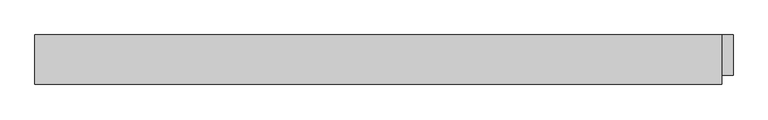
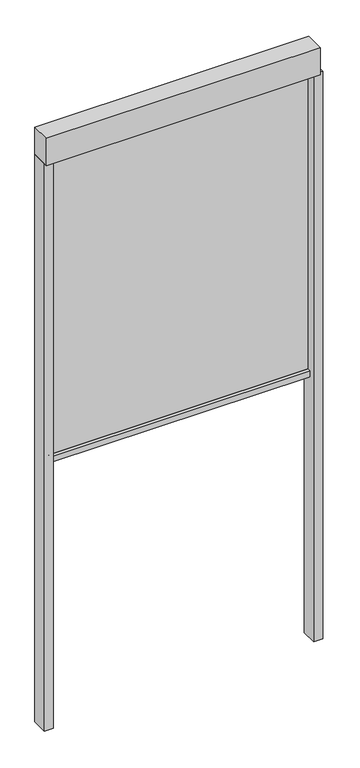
"""IFC4 building model written with IfcOpenShell, lengths in millimetres: proxy geometry, Renson_Fixscreen_Minimal_CW50_Start : For curtain wall - Start element - Access downwards - Fabric close to the window."""

import ifcopenshell
import ifcopenshell.guid

model = None  # the IFC model being written
_history = None  # IfcOwnerHistory: only IFC2X3 demands one
_inside = {}  # id of a spatial element -> (the spatial element, [elements in it])
_under = {}  # id of a project, library or spatial element -> (it, [spatial elements below it])
_declared = {}  # id of a project -> (the project, [libraries it declares])
_typed = {}  # id of a type object -> (the type object, [elements of that type])
_made_of = {}  # id of a material, layer set ... -> (it, [elements and type objects made of it])


def new_model(schema):
    """Start an empty IFC model of exactly this schema.

    Asked for "IFC4X3", IfcOpenShell would pick the latest addendum, in which some entities
    have other attributes; the version numbers below select the first issue.
    IFC2X3 requires an IfcOwnerHistory on every rooted entity: one is made here for all.
    """
    global model, _history
    if schema == "IFC4X3":
        model = ifcopenshell.file(schema_version=(4, 3, 0, 0))
    else:
        model = ifcopenshell.file(schema=schema)
    _inside.clear()
    _under.clear()
    _declared.clear()
    _typed.clear()
    _made_of.clear()
    _history = None
    if model.schema == "IFC2X3":
        org = make("IfcOrganization", Name="unknown")
        user = make(
            "IfcPersonAndOrganization",
            ThePerson=make("IfcPerson", FamilyName="unknown"),
            TheOrganization=org,
        )
        app = make(
            "IfcApplication",
            ApplicationDeveloper=org,
            Version="unknown",
            ApplicationFullName="unknown",
            ApplicationIdentifier="unknown",
        )
        _history = make(
            "IfcOwnerHistory",
            OwningUser=user,
            OwningApplication=app,
            ChangeAction="ADDED",
            CreationDate=0,
        )
    return model


def make(cls, **values):
    """One entity of the class cls with the attributes given. An attribute that is None is left unset."""
    return model.create_entity(
        cls, **{name: value for name, value in values.items() if value is not None}
    )


def rooted(cls, **values):
    """An entity with a GlobalId (a new one), such as an element, a storey or a relation."""
    return make(cls, GlobalId=ifcopenshell.guid.new(), OwnerHistory=_history, **values)


def si_unit(unit_type, name, prefix=None):
    """IfcSIUnit, for example si_unit("LENGTHUNIT", "METRE", prefix="MILLI")."""
    return make("IfcSIUnit", UnitType=unit_type, Prefix=prefix, Name=name)


def assignment(units):
    """IfcUnitAssignment: the units of a project."""
    return None if units is None else make("IfcUnitAssignment", Units=units)


def point(xyz):
    """IfcCartesianPoint."""
    return None if xyz is None else make("IfcCartesianPoint", Coordinates=xyz)


def direction(xyz):
    """IfcDirection."""
    return None if xyz is None else make("IfcDirection", DirectionRatios=xyz)


def frame(location, z_axis=None, x_axis=None):
    """IfcAxis2Placement3D, a coordinate frame: its origin and axes. An axis left out is left unset."""
    return make(
        "IfcAxis2Placement3D",
        Location=point(location),
        Axis=direction(z_axis),
        RefDirection=direction(x_axis),
    )


def frame_2d(location, x_axis=None):
    """IfcAxis2Placement2D, a coordinate frame in the plane: its origin and x axis."""
    return make(
        "IfcAxis2Placement2D", Location=point(location), RefDirection=direction(x_axis)
    )


def origin():
    """The frame at (0, 0, 0) with its axes left unset."""
    return frame((0.0, 0.0, 0.0))


def origin_with_axes():
    """The frame at (0, 0, 0) with the z axis (0, 0, 1) and the x axis (1, 0, 0) written out."""
    return frame((0.0, 0.0, 0.0), z_axis=(0.0, 0.0, 1.0), x_axis=(1.0, 0.0, 0.0))


def place(relative_to, where):
    """IfcLocalPlacement: puts the frame where relative to a parent placement (None: the world)."""
    return make(
        "IfcLocalPlacement", PlacementRelTo=relative_to, RelativePlacement=where
    )


def context(
    kind, dimensions, precision=None, world=None, true_north=None, identifier=None
):
    """IfcGeometricRepresentationContext, for example the 3D "Model" context."""
    return make(
        "IfcGeometricRepresentationContext",
        ContextIdentifier=identifier,
        ContextType=kind,
        CoordinateSpaceDimension=dimensions,
        Precision=precision,
        WorldCoordinateSystem=world,
        TrueNorth=true_north,
    )


def project(units=None, contexts=None):
    """IfcProject with its units and contexts."""
    return rooted(
        "IfcProject",
        Name="project",
        RepresentationContexts=contexts,
        UnitsInContext=assignment(units),
    )


def spatial(cls, under=None, at=None, **own):
    """A site, building, storey or space (cls), placed at a placement, below another one or the project."""
    s = rooted(cls, ObjectPlacement=at, **own)
    if under is not None:
        _under.setdefault(under.id(), (under, []))[1].append(s)
    return s


def polyline(points):
    """IfcPolyline through the points."""
    return make("IfcPolyline", Points=[point(p) for p in points])


def circle_curve(where, radius):
    """IfcCircle in the frame where."""
    return make("IfcCircle", Position=where, Radius=radius)


def trimmed(basis, trim1, trim2, sense, master):
    """IfcTrimmedCurve: the piece of a basis curve between two trims."""
    return make(
        "IfcTrimmedCurve",
        BasisCurve=basis,
        Trim1=trim1,
        Trim2=trim2,
        SenseAgreement=sense,
        MasterRepresentation=master,
    )


def segment(curve, same_sense, transition):
    """IfcCompositeCurveSegment."""
    return make(
        "IfcCompositeCurveSegment",
        Transition=transition,
        SameSense=same_sense,
        ParentCurve=curve,
    )


def composite_curve(segments, self_intersect=None):
    """IfcCompositeCurve: segments joined end to end."""
    return make("IfcCompositeCurve", Segments=segments, SelfIntersect=self_intersect)


def outline(outer, holes=None, kind="AREA"):
    """IfcArbitraryClosedProfileDef: a profile drawn as a closed curve; with holes, ...WithVoids."""
    if holes is None:
        return make("IfcArbitraryClosedProfileDef", ProfileType=kind, OuterCurve=outer)
    return make(
        "IfcArbitraryProfileDefWithVoids",
        ProfileType=kind,
        OuterCurve=outer,
        InnerCurves=holes,
    )


def extrude(swept, where, along, depth):
    """IfcExtrudedAreaSolid: the profile swept, set in the frame where, extruded along a direction by depth."""
    return make(
        "IfcExtrudedAreaSolid",
        SweptArea=swept,
        Position=where,
        ExtrudedDirection=direction(along),
        Depth=depth,
    )


def shape(context_of_items, identifier, shape_type, items):
    """IfcShapeRepresentation: the items that make up one representation, for example the "Body"."""
    return make(
        "IfcShapeRepresentation",
        ContextOfItems=context_of_items,
        RepresentationIdentifier=identifier,
        RepresentationType=shape_type,
        Items=items,
    )


def source(mapping_origin, context_of_items, identifier, shape_type, items):
    """IfcRepresentationMap: a shape defined once, which mapped items show again and again."""
    return make(
        "IfcRepresentationMap",
        MappingOrigin=mapping_origin,
        MappedRepresentation=shape(context_of_items, identifier, shape_type, items),
    )


def transform(
    local_origin,
    x_axis=None,
    y_axis=None,
    z_axis=None,
    scale=None,
    scale2=None,
    scale3=None,
    uniform=True,
):
    """IfcCartesianTransformationOperator3D, or its non-uniform kind. x_axis, y_axis, z_axis: its Axis1, 2, 3."""
    if uniform:
        return make(
            "IfcCartesianTransformationOperator3D",
            Axis1=direction(x_axis),
            Axis2=direction(y_axis),
            LocalOrigin=point(local_origin),
            Scale=scale,
            Axis3=direction(z_axis),
        )
    return make(
        "IfcCartesianTransformationOperator3DnonUniform",
        Axis1=direction(x_axis),
        Axis2=direction(y_axis),
        LocalOrigin=point(local_origin),
        Scale=scale,
        Axis3=direction(z_axis),
        Scale2=scale2,
        Scale3=scale3,
    )


def mapped(mapping_source, mapping_target):
    """IfcMappedItem: shows the shape of a source again, moved by a transform."""
    return make(
        "IfcMappedItem", MappingSource=mapping_source, MappingTarget=mapping_target
    )


def made_of(thing, what):
    """Note that an element or type object is made of a material, layer set ...; save() writes the relation."""
    if what is not None:
        _made_of.setdefault(what.id(), (what, []))[1].append(thing)
    return thing


def element(
    cls,
    number,
    at=None,
    inside=None,
    cuts=None,
    type_object=None,
    material=None,
    context=None,
    identifier="Body",
    shape_type=None,
    held_by="IfcProductDefinitionShape",
    body=None,
    shapes=None,
    **own,
):
    """One element of the class cls, such as IfcWall. Its Tag is "e" and its number.

    at: its placement. inside: the storey or other place that contains it. cuts: it is an
    opening in that element (IfcRelVoidsElement). A single representation is given by context,
    identifier, shape_type and body (its items); several are given by shapes. held_by: the class
    of the entity that holds the representations. save() writes the other relations.
    """
    e = rooted(cls, Tag="e%d" % number, ObjectPlacement=at, **own)
    if body is not None:
        shapes = [shape(context, identifier, shape_type, body)]
    if shapes is not None:
        e.Representation = make(held_by, Representations=shapes)
    if inside is not None:
        _inside.setdefault(inside.id(), (inside, []))[1].append(e)
    if cuts is not None:
        rooted(
            "IfcRelVoidsElement", RelatingBuildingElement=cuts, RelatedOpeningElement=e
        )
    if type_object is not None:
        _typed.setdefault(type_object.id(), (type_object, []))[1].append(e)
    return made_of(e, material)


def aggregate(whole, parts):
    """IfcRelAggregates: a whole, such as a stair, and the parts it consists of."""
    return rooted("IfcRelAggregates", RelatingObject=whole, RelatedObjects=parts)


def save(model, path):
    """Write the relations noted so far, then the file.

    IfcRelAggregates (storeys below a building ...), IfcRelContainedInSpatialStructure (elements
    in a storey), IfcRelDefinesByType, IfcRelAssociatesMaterial and IfcRelDeclares: one each for
    every whole, place, type object, material and project.
    """
    for whole, parts in _under.values():
        aggregate(whole, parts)
    for where, things in _inside.values():
        rooted(
            "IfcRelContainedInSpatialStructure",
            RelatedElements=things,
            RelatingStructure=where,
        )
    for kind, things in _typed.values():
        rooted("IfcRelDefinesByType", RelatedObjects=things, RelatingType=kind)
    for what, things in _made_of.values():
        rooted("IfcRelAssociatesMaterial", RelatedObjects=things, RelatingMaterial=what)
    for by, libraries in _declared.values():
        rooted("IfcRelDeclares", RelatingContext=by, RelatedDefinitions=libraries)
    model.write(path)


def generic_models_317902a9(model_context):
    return source(origin(), model_context, "Body", "SweptSolid", [
        extrude(outline(polyline([(-970.0, -783.5959909), (-1020.0, -783.5959909), (-1020.0, -693.5959909), (-970.0, -693.5959909), (-970.0, -783.5959909)])), origin_with_axes(), (0.0, 0.0, 1.0), 3340.0),
        extrude(outline(polyline([(530.0, -783.5959909), (480.0, -783.5959909), (480.0, -693.5959909), (530.0, -693.5959909), (530.0, -783.5959909)])), origin_with_axes(), (0.0, 0.0, 1.0), 3340.0),
        extrude(outline(polyline([(-1020.0, -693.5959909), (505.0, -693.5959909), (505.0, -803.5959909), (-1020.0, -803.5959909), (-1020.0, -693.5959909)])), frame((0.0, 0.0, 3340.0), z_axis=(0.0, 0.0, 1.0), x_axis=(1.0, 0.0, 0.0)), (0.0, 0.0, 1.0), 160.0),
        extrude(outline(composite_curve([segment(polyline([(-708.5959909, 1540.0), (-749.0958874, 1540.0), (-749.0958874, 1574.1156826), (-731.9717779, 1575.0000198)]), True, "CONTINUOUS"), segment(trimmed(circle_curve(frame_2d((-731.9459909, 1574.5006852)), 0.5), [point((-731.9717779, 1575.0000198))], [point((-731.4459909, 1574.5006852))], False, "CARTESIAN"), True, "CONTINUOUS"), segment(polyline([(-731.4459909, 1574.5006852), (-731.4459909, 1573.5367989), (-732.7111292, 1573.5367989), (-731.9708257, 1569.0119223)]), True, "CONTINUOUS"), segment(trimmed(circle_curve(frame_2d((-771.4459909, 1562.5534911)), 40.0), [point((-731.9708257, 1569.0119223))], [point((-731.4459909, 1562.5534911))], False, "CARTESIAN"), True, "CONTINUOUS"), segment(polyline([(-731.4459909, 1562.5534911), (-731.4459909, 1554.5006852)]), True, "CONTINUOUS"), segment(trimmed(circle_curve(frame_2d((-729.4459909, 1554.5006852)), 2.0), [point((-731.4459909, 1554.5006852))], [point((-729.4459909, 1552.5006852))], True, "CARTESIAN"), True, "CONTINUOUS"), segment(polyline([(-729.4459909, 1552.5006852), (-727.7459909, 1552.5006852)]), True, "CONTINUOUS"), segment(trimmed(circle_curve(frame_2d((-727.7459909, 1554.5006852)), 2.0), [point((-727.7459909, 1552.5006852))], [point((-725.7459909, 1554.5006852))], True, "CARTESIAN"), True, "CONTINUOUS"), segment(polyline([(-725.7459909, 1554.5006852), (-725.7459909, 1562.5534911)]), True, "CONTINUOUS"), segment(trimmed(circle_curve(frame_2d((-685.7459909, 1562.5534911)), 40.0), [point((-725.7459909, 1562.5534911))], [point((-725.221156, 1569.0119223))], False, "CARTESIAN"), True, "CONTINUOUS"), segment(polyline([(-725.221156, 1569.0119223), (-724.4808525, 1573.5367989), (-725.7459909, 1573.5367989), (-725.7459909, 1574.5006852)]), True, "CONTINUOUS"), segment(trimmed(circle_curve(frame_2d((-725.2459909, 1574.5006852)), 0.5), [point((-725.7459909, 1574.5006852))], [point((-725.2194276, 1574.9999791))], False, "CARTESIAN"), True, "CONTINUOUS"), segment(polyline([(-725.2194276, 1574.9999791), (-708.5959909, 1574.1156826), (-708.5959909, 1540.0)]), True, "CONTINUOUS")], self_intersect=False)), frame((-970.0, 0.0, 0.0), z_axis=(1.0, 0.0, 0.0), x_axis=(0.0, 1.0, 0.0)), (0.0, 0.0, 1.0), 1450.0),
        extrude(outline(polyline([(-970.0, -730.0959909), (-970.0, -727.0959909), (480.0, -727.0959909), (480.0, -730.0959909), (-970.0, -730.0959909)])), frame((0.0, 0.0, 1552.5006852), z_axis=(0.0, 0.0, 1.0), x_axis=(1.0, 0.0, 0.0)), (0.0, 0.0, 1.0), 1787.4993148),
    ])


if __name__ == "__main__":
    model = new_model("IFC4")
    model_context = context("Model", 3, world=origin())
    ifc_project = project(units=[si_unit("LENGTHUNIT", "METRE", prefix="MILLI")], contexts=[model_context])
    site = spatial("IfcSite", under=ifc_project)
    building = spatial("IfcBuilding", under=site)
    placement = place(None, origin())
    generic_models_shape = generic_models_317902a9(model_context)
    element("IfcBuildingElementProxy", 1, Name="Renson_Fixscreen_Minimal_CW50_Start : For curtain wall - Start element - Access downwards - Fabric close to the window", ObjectType="Renson_Fixscreen_Minimal_CW50_Start : For curtain wall - Start element - Access downwards - Fabric close to the window", at=placement, inside=building, context=model_context, shape_type="MappedRepresentation", body=[
        mapped(generic_models_shape, transform((0.0, 0.0, 0.0), x_axis=(1.0, 0.0, 0.0), y_axis=(0.0, 1.0, 0.0), z_axis=(0.0, 0.0, 1.0))),
    ])
    save(model, "model.ifc")
